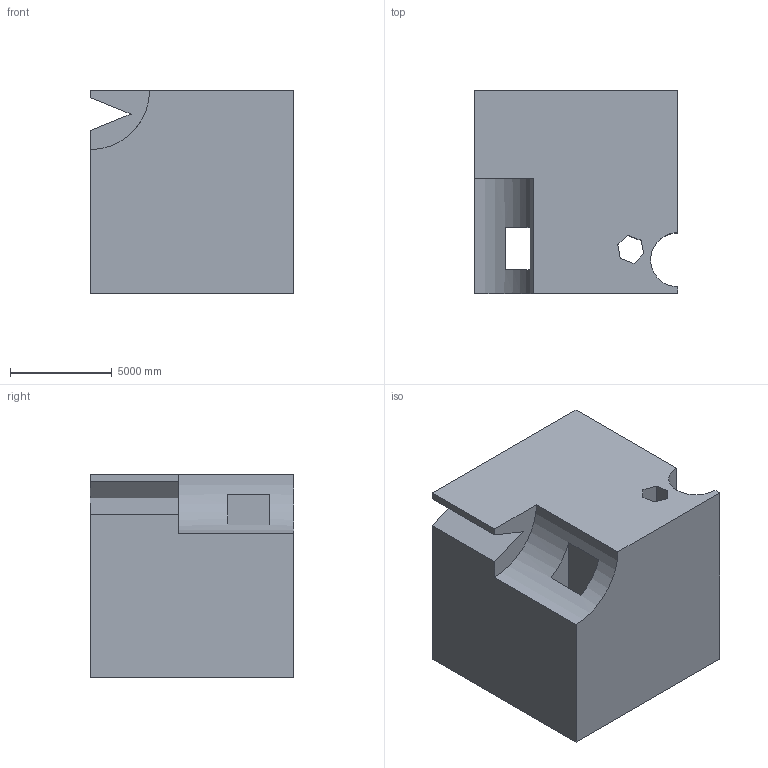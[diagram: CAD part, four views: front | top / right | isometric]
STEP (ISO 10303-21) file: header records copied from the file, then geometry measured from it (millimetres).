
FILE_DESCRIPTION (( 'STEP AP203' ), '1' );
FILE_NAME ('40.STEP', '2022-08-30T14:08:33', ( 'user' ), ( '' ), 'SwSTEP 2.0', 'SolidWorks 2021', '' );
FILE_SCHEMA (( 'CONFIG_CONTROL_DESIGN' ));
Length unit declared in the file: centimetre
Products named in the file (1): 40
Bounding box: 10000 x 10000 x 10000 mm (x, y, z)
Volume: 894371565386.1 mm3; surface area: 697544457 mm2
Topology: 1 solids, 1 shells, 23 faces, 63 edges, 42 vertices
Faces by surface type: plane 21, cylinder 2
Entity records: 808 total; most frequent: CARTESIAN_POINT 129, ORIENTED_EDGE 126, DIRECTION 117, EDGE_CURVE 63, VECTOR 57, LINE 57, VERTEX_POINT 42, AXIS2_PLACEMENT_3D 30
